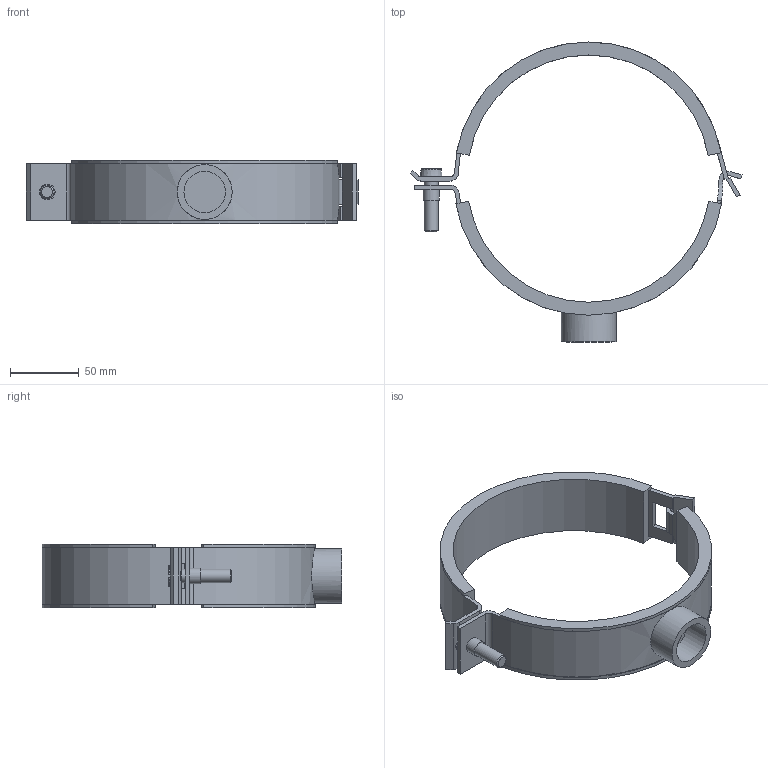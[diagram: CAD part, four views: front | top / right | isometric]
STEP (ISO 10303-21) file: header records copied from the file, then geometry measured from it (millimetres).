
FILE_DESCRIPTION(/* description */ (''),/* implementation_level */ '2;1');
FILE_NAME(/* name */ 'H:\Geberit-Teile\Export\315813 ART\stp\315813.stp',/* time_stamp */ '2014-04-15T14:57:19+02:00',/* author */ ('seihe2'),/* organization */ (''),/* preprocessor_version */ 'ST-DEVELOPER v15.2',/* originating_system */ 'Autodesk Inventor 2014',/* authorisation */ '');
FILE_SCHEMA (('AUTOMOTIVE_DESIGN { 1 0 10303 214 3 1 1 }'));
Length unit declared in the file: millimetre
Products named in the file (1): 315813
Bounding box: 242.32 x 218.92 x 46 mm (x, y, z)
Volume: 255053.3 mm3; surface area: 86218.1 mm2
Topology: 3 solids, 3 shells, 95 faces, 258 edges, 169 vertices
Faces by surface type: plane 55, cylinder 35, cone 3, torus 2
Full cylindrical faces by diameter (mm): 8.376 x1, 9.08 x1, 10 x1, 11.5 x1, 30.291 x1, 40 x1
Entity records: 3181 total; most frequent: CARTESIAN_POINT 648, DIRECTION 514, ORIENTED_EDGE 492, EDGE_CURVE 246, AXIS2_PLACEMENT_3D 184, VERTEX_POINT 166, LINE 146, VECTOR 146
